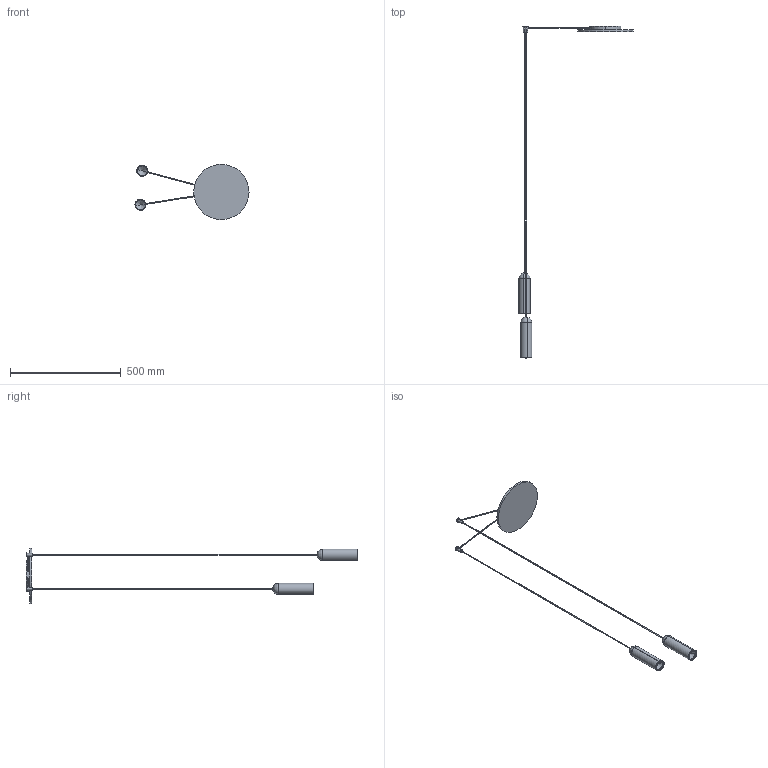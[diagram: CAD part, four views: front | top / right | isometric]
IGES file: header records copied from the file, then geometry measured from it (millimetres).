
Start section: SolidWorks IGES file using analytic representation for surfaces
Global section: file name: Y:\eforma\TECNICO\SOLIDWORKS\E-FORMA\09-LAMPADE\NANUM\02 parts\NAN02-00-NANUM_2 sospensione.IGS; native system: SolidWorks 2022; preprocessor: SolidWorks 2022; author: eforma.tech; date: 250505.163830; units: millimetre
Bounding box: 515.44 x 1500 x 250 mm (x, y, z)
Volume: 878591.8 mm3; surface area: 274595.8 mm2
Topology: 7 solids, 7 shells, 79 faces, 152 edges, 88 vertices
Faces by surface type: revolution 60, plane 19
